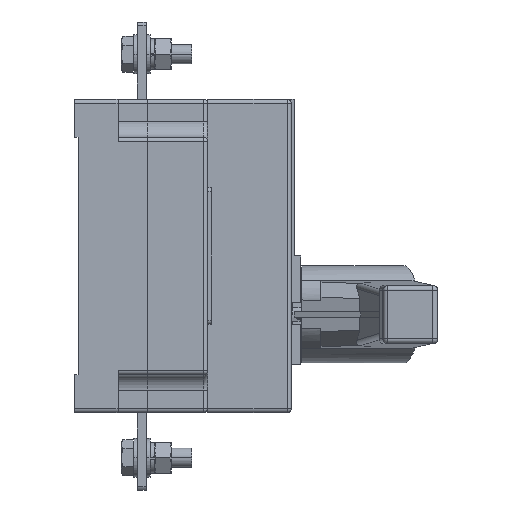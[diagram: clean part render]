
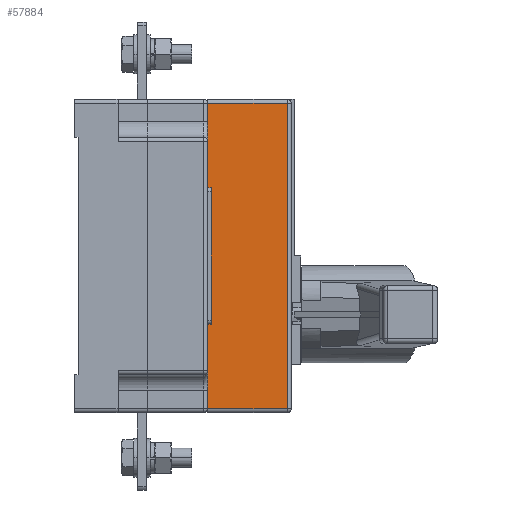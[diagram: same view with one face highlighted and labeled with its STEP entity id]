
A CAD part, left-side view. The second image highlights one B-rep face of the part: STEP entity #57884.
In plain terms, the highlighted planar face has unit normal (-1, 0, 0).
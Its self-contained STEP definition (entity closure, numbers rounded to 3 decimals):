
#56104=DIRECTION('',(0.,-1.,0.));
#56105=VECTOR('',#56104,41.);
#56106=CARTESIAN_POINT('',(-52.5,-31.,-78.5));
#56107=LINE('',#56106,#56105);
#56108=DIRECTION('',(0.,0.,1.));
#56109=VECTOR('',#56108,157.);
#56110=CARTESIAN_POINT('',(-52.5,-31.,-78.5));
#56111=LINE('',#56110,#56109);
#56112=DIRECTION('',(0.,-1.,0.));
#56113=VECTOR('',#56112,41.);
#56114=CARTESIAN_POINT('',(-52.5,-31.,78.5));
#56115=LINE('',#56114,#56113);
#56116=DIRECTION('',(0.,0.,-1.));
#56117=VECTOR('',#56116,157.);
#56118=CARTESIAN_POINT('',(-52.5,-72.,78.5));
#56119=LINE('',#56118,#56117);
#57050=CARTESIAN_POINT('',(-52.5,-31.,-78.5));
#57052=VERTEX_POINT('',#57050);
#57053=CARTESIAN_POINT('',(-52.5,-72.,-78.5));
#57054=VERTEX_POINT('',#57053);
#57055=CARTESIAN_POINT('',(-52.5,-72.,78.5));
#57056=VERTEX_POINT('',#57055);
#57059=CARTESIAN_POINT('',(-52.5,-31.,78.5));
#57061=VERTEX_POINT('',#57059);
#57870=CARTESIAN_POINT('',(-52.5,-74.,-80.5));
#57871=DIRECTION('',(-1.,0.,0.));
#57872=DIRECTION('',(0.,0.,1.));
#57873=AXIS2_PLACEMENT_3D('',#57870,#57871,#57872);
#57874=PLANE('',#57873);
#57876=ORIENTED_EDGE('',*,*,#57875,.F.);
#57878=ORIENTED_EDGE('',*,*,#57877,.T.);
#57880=ORIENTED_EDGE('',*,*,#57879,.T.);
#57881=ORIENTED_EDGE('',*,*,#57861,.T.);
#57882=EDGE_LOOP('',(#57876,#57878,#57880,#57881));
#57883=FACE_OUTER_BOUND('',#57882,.F.);
#57884=ADVANCED_FACE('',(#57883),#57874,.T.);
#57861=EDGE_CURVE('',#57056,#57054,#56119,.T.);
#57875=EDGE_CURVE('',#57052,#57054,#56107,.T.);
#57877=EDGE_CURVE('',#57052,#57061,#56111,.T.);
#57879=EDGE_CURVE('',#57061,#57056,#56115,.T.);
